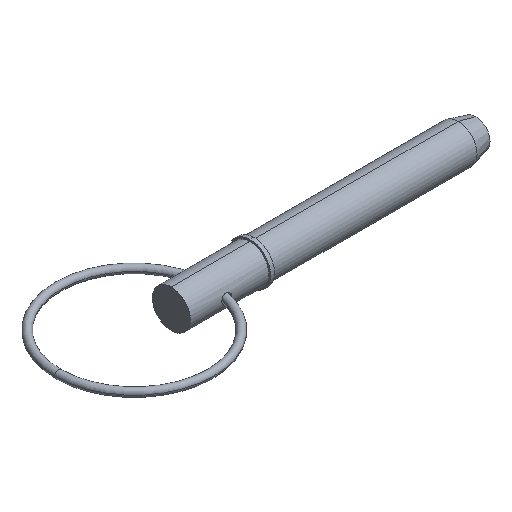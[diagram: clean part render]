
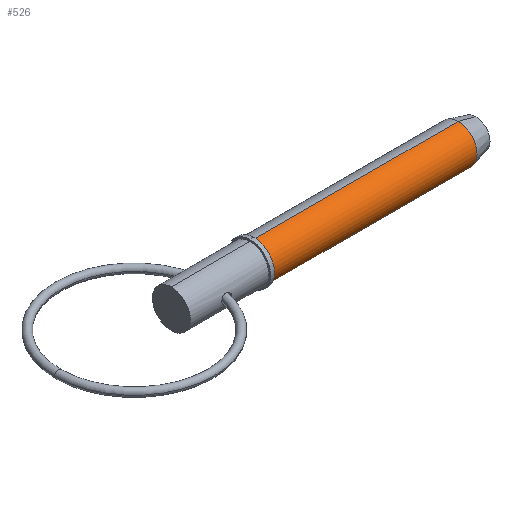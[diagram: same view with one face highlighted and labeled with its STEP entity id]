
A CAD part, isometric view. The second image highlights one B-rep face of the part: STEP entity #526.
In plain terms, the highlighted cylindrical face has radius 5.555 mm (diameter 11.11 mm), a partial arc.
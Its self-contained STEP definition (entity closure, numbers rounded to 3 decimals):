
#45 = AXIS2_PLACEMENT_3D ( 'NONE', #53, #671, #360 ) ;
#53 = CARTESIAN_POINT ( 'NONE',  ( 0., 0., 0. ) ) ;
#139 = ORIENTED_EDGE ( 'NONE', *, *, #408, .T. ) ;
#144 = EDGE_LOOP ( 'NONE', ( #430, #139, #775, #766 ) ) ;
#149 = VERTEX_POINT ( 'NONE', #769 ) ;
#200 = EDGE_CURVE ( 'NONE', #721, #293, #809, .T. ) ;
#293 = VERTEX_POINT ( 'NONE', #822 ) ;
#314 = VECTOR ( 'NONE', #390, 1000. ) ;
#360 = DIRECTION ( 'NONE',  ( 0., 0., -1. ) ) ;
#390 = DIRECTION ( 'NONE',  ( 1., 0., 0. ) ) ;
#393 = DIRECTION ( 'NONE',  ( 1., 0., 0. ) ) ;
#408 = EDGE_CURVE ( 'NONE', #736, #149, #513, .T. ) ;
#430 = ORIENTED_EDGE ( 'NONE', *, *, #1021, .F. ) ;
#446 = DIRECTION ( 'NONE',  ( 1., 0., 0. ) ) ;
#464 = VECTOR ( 'NONE', #446, 1000. ) ;
#476 = CARTESIAN_POINT ( 'NONE',  ( 84.017, 0., 0. ) ) ;
#513 = CIRCLE ( 'NONE', #532, 5.555 ) ;
#526 = ADVANCED_FACE ( 'NONE', ( #767 ), #756, .T. ) ;
#532 = AXIS2_PLACEMENT_3D ( 'NONE', #575, #885, #897 ) ;
#557 = DIRECTION ( 'NONE',  ( 0., 0., -1. ) ) ;
#575 = CARTESIAN_POINT ( 'NONE',  ( 24.13, 0., 0. ) ) ;
#621 = CARTESIAN_POINT ( 'NONE',  ( 84.017, 0., 5.555 ) ) ;
#657 = LINE ( 'NONE', #752, #464 ) ;
#671 = DIRECTION ( 'NONE',  ( 1., 0., 0. ) ) ;
#694 = AXIS2_PLACEMENT_3D ( 'NONE', #476, #393, #557 ) ;
#705 = CARTESIAN_POINT ( 'NONE',  ( 24.13, 0., 5.555 ) ) ;
#721 = VERTEX_POINT ( 'NONE', #621 ) ;
#736 = VERTEX_POINT ( 'NONE', #705 ) ;
#752 = CARTESIAN_POINT ( 'NONE',  ( 0., 0., -5.555 ) ) ;
#756 = CYLINDRICAL_SURFACE ( 'NONE', #45, 5.555 ) ;
#766 = ORIENTED_EDGE ( 'NONE', *, *, #200, .F. ) ;
#767 = FACE_OUTER_BOUND ( 'NONE', #144, .T. ) ;
#769 = CARTESIAN_POINT ( 'NONE',  ( 24.13, 0., -5.555 ) ) ;
#775 = ORIENTED_EDGE ( 'NONE', *, *, #1001, .T. ) ;
#809 = CIRCLE ( 'NONE', #694, 5.555 ) ;
#822 = CARTESIAN_POINT ( 'NONE',  ( 84.017, 0., -5.555 ) ) ;
#885 = DIRECTION ( 'NONE',  ( 1., 0., 0. ) ) ;
#897 = DIRECTION ( 'NONE',  ( 0., 0., -1. ) ) ;
#925 = LINE ( 'NONE', #1014, #314 ) ;
#1001 = EDGE_CURVE ( 'NONE', #149, #293, #657, .T. ) ;
#1014 = CARTESIAN_POINT ( 'NONE',  ( 0., 0., 5.555 ) ) ;
#1021 = EDGE_CURVE ( 'NONE', #736, #721, #925, .T. ) ;
